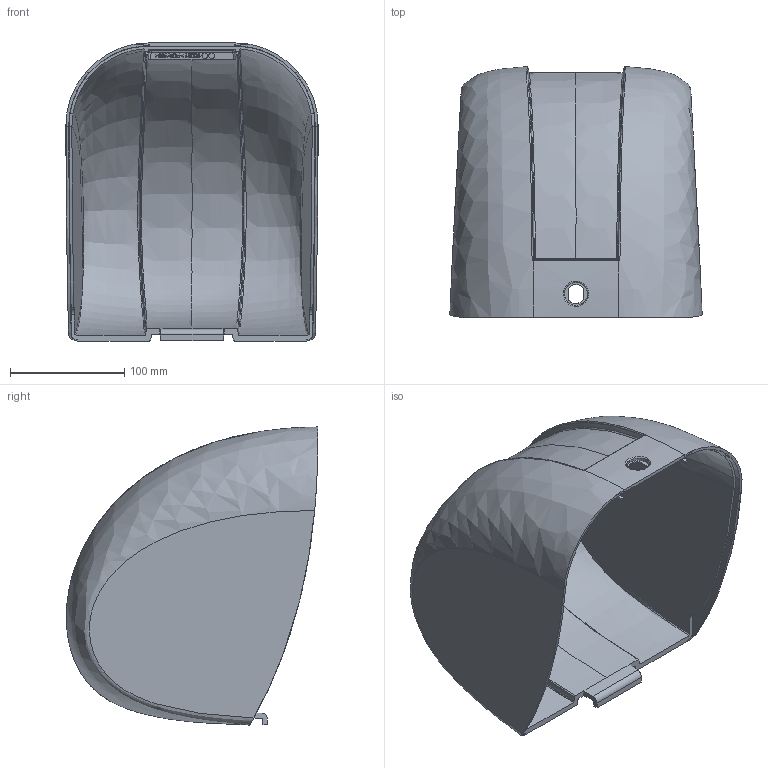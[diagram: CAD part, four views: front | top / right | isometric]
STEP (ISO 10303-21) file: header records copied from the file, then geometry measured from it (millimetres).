
FILE_DESCRIPTION (( 'STEP AP214' ), '1' );
FILE_NAME ('10114V000_Haube_Index_3.STEP', '2014-11-13T09:32:49', ( 'Admin' ), ( '' ), 'SwSTEP 2.0', 'SolidWorks 2014', '' );
FILE_SCHEMA (( 'AUTOMOTIVE_DESIGN' ));
Length unit declared in the file: millimetre
Products named in the file (1): 10114V000_Haube_Index_3
Bounding box: 221.13 x 220.16 x 261.24 mm (x, y, z)
Volume: 846017.2 mm3; surface area: 352433.4 mm2
Topology: 17 solids, 17 shells, 563 faces, 1462 edges, 956 vertices
Faces by surface type: plane 284, bspline 255, cylinder 18, sphere 4, cone 2
Entity records: 97530 total; most frequent: CARTESIAN_POINT 85144, ORIENTED_EDGE 2924, DIRECTION 1509, EDGE_CURVE 1462, VERTEX_POINT 956, VECTOR 821, LINE 821, EDGE_LOOP 598
